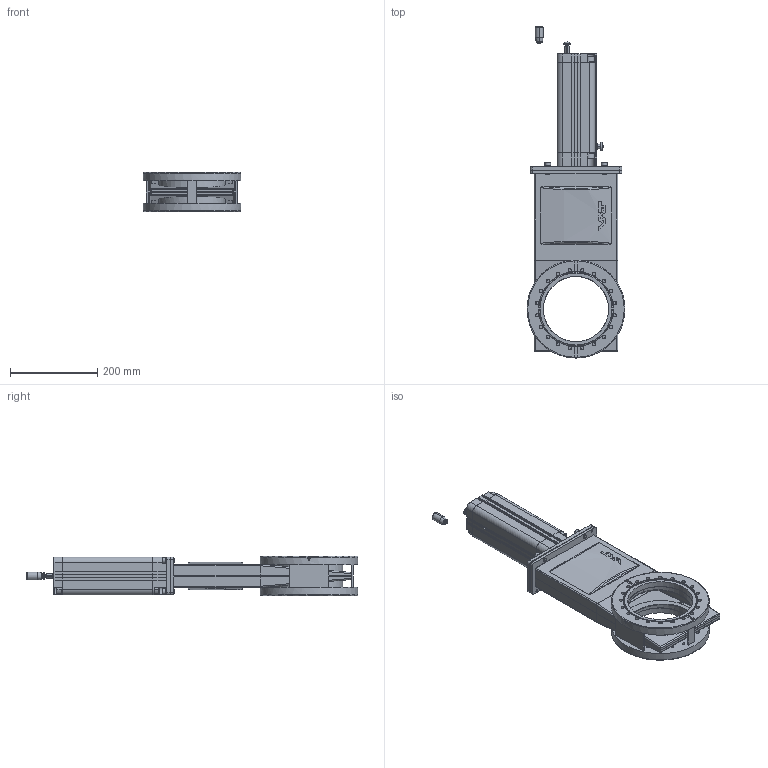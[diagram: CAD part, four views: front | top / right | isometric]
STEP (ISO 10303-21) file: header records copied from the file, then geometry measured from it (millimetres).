
FILE_DESCRIPTION(/* description */ (''),/* implementation_level */ '2;1');
FILE_NAME(/* name */ '1003277542_203',/* time_stamp */ '2009-11-20T15:04:27+01:00',/* author */ (''),/* organization */ (''),/* preprocessor_version */ 'ST-DEVELOPER v11',/* originating_system */ 'UGS - NX 5.0',/* authorisation */ '');
FILE_SCHEMA (('CONFIG_CONTROL_DESIGN'));
Length unit declared in the file: millimetre
Products named in the file (29): 255736.1; 255802.2; 259431.1; 261363.3; 261364.3; 261366.3; 301646.1; 261368.5; 332689.2; 261361.5; 261369.1; 260826.1; N-6066-009.1; 261336.1; N-6092-118.1; 255792.2; 313588.1; 255788.2; 319417.1; 307161.2; 319418.1; 228777; n-6134-409.1; 255558.4; 332310.2; 261337.1; 255803.6; 320582.2; 425860
Assembly tree (41 placements, depth 4):
  425860
    320582.2
      319418.1
      307161.2
      319417.1
      255788.2  x2
      313588.1  x2
      255803.6
        255802.2  x2
        255736.1
      255792.2
    255558.4
    261337.1
      N-6092-118.1  x2
      261336.1
    n-6134-409.1  x4
    228777  x4
    332310.2
      N-6066-009.1
      260826.1
      261369.1  x4
      261361.5
      332689.2
      261368.5
      301646.1
      261366.3
      261364.3
      261363.3
      259431.1
Bounding box: 224.8 x 763.1 x 90 mm (x, y, z)
Volume: 2517724.1 mm3; surface area: 944025.4 mm2
Topology: 46 solids, 46 shells, 1613 faces, 4082 edges, 2671 vertices
Faces by surface type: plane 747, cylinder 527, bspline 197, cone 76, revolution 58, torus 4, sphere 4
Full cylindrical faces by diameter (mm): 1.7 x1, 2.2 x1, 3.17 x1, 4 x2, 4.985 x1, 4.991 x3, 5 x2, 5.124 x2, 5.22 x4, 5.3 x1, 6.66 x4, 6.7 x4, 6.8 x42, 7.7 x2, 7.976 x1, 8 x54, 8.4 x4, 8.5 x10, 9.976 x1, 10 x4, 10.008 x1, 11 x1, 13 x4, 13.586 x1, 13.626 x1, 15 x7, 15.2 x1, 15.4 x4, 16.2 x1, 16.5 x4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
Entity records: 53429 total; most frequent: CARTESIAN_POINT 20155, ORIENTED_EDGE 6000, DIRECTION 5871, EDGE_CURVE 3000, AXIS2_PLACEMENT_3D 2137, VERTEX_POINT 2112, EDGE_LOOP 1742, LINE 1569
